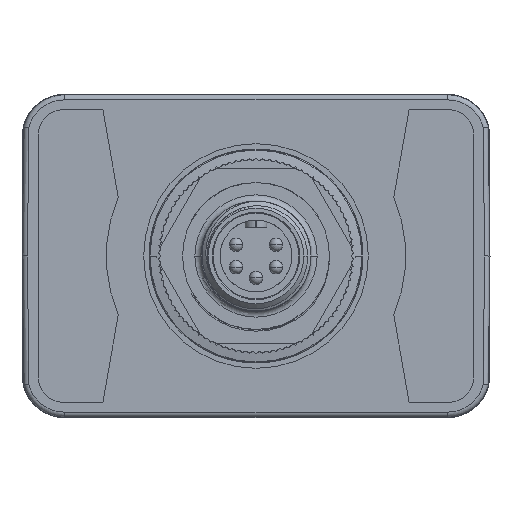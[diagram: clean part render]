
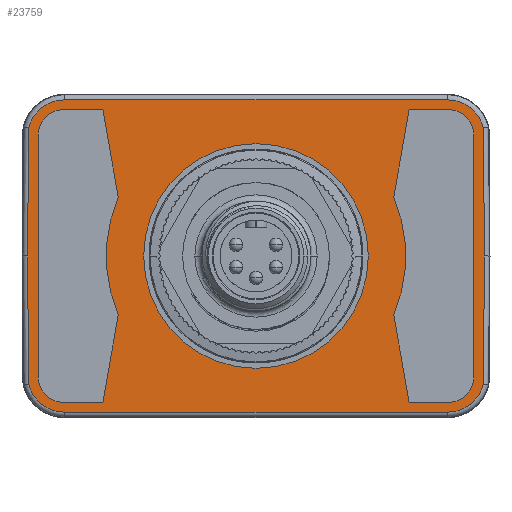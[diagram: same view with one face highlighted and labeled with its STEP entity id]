
A CAD part, front view. The second image highlights one B-rep face of the part: STEP entity #23759.
In plain terms, the highlighted planar face has unit normal (0, -1, 0).
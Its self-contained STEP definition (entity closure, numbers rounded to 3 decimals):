
#2=CARTESIAN_POINT('',(0.,-8.255,0.));
#3=DIRECTION('',(0.,-1.,0.));
#4=DIRECTION('',(-0.393,0.,-0.92));
#5=AXIS2_PLACEMENT_3D('',#2,#3,#4);
#7=DIRECTION('',(-0.985,0.,-0.174));
#8=VECTOR('',#7,13.267);
#9=CARTESIAN_POINT('',(-8.778,-8.255,-20.556));
#10=LINE('',#9,#8);
#11=DIRECTION('',(0.,0.,-1.));
#12=VECTOR('',#11,5.842);
#13=CARTESIAN_POINT('',(-21.844,-8.255,-22.86));
#14=LINE('',#13,#12);
#15=CARTESIAN_POINT('',(-18.034,-8.255,-28.702));
#16=DIRECTION('',(0.,-1.,0.));
#17=DIRECTION('',(-1.,0.,0.));
#18=AXIS2_PLACEMENT_3D('',#15,#16,#17);
#20=DIRECTION('',(1.,0.,0.));
#21=VECTOR('',#20,36.068);
#22=CARTESIAN_POINT('',(-18.034,-8.255,-32.512));
#23=LINE('',#22,#21);
#24=CARTESIAN_POINT('',(18.034,-8.255,-28.702));
#25=DIRECTION('',(0.,-1.,0.));
#26=DIRECTION('',(0.,0.,-1.));
#27=AXIS2_PLACEMENT_3D('',#24,#25,#26);
#29=DIRECTION('',(0.,0.,1.));
#30=VECTOR('',#29,5.842);
#31=CARTESIAN_POINT('',(21.844,-8.255,-28.702));
#32=LINE('',#31,#30);
#33=DIRECTION('',(-0.985,0.,0.174));
#34=VECTOR('',#33,13.267);
#35=CARTESIAN_POINT('',(21.844,-8.255,-22.86));
#36=LINE('',#35,#34);
#37=DIRECTION('',(0.,0.,1.));
#38=VECTOR('',#37,5.842);
#39=CARTESIAN_POINT('',(21.844,-8.255,22.86));
#40=LINE('',#39,#38);
#41=CARTESIAN_POINT('',(18.034,-8.255,28.702));
#42=DIRECTION('',(0.,-1.,0.));
#43=DIRECTION('',(1.,0.,0.));
#44=AXIS2_PLACEMENT_3D('',#41,#42,#43);
#46=DIRECTION('',(-1.,0.,0.));
#47=VECTOR('',#46,36.068);
#48=CARTESIAN_POINT('',(18.034,-8.255,32.512));
#49=LINE('',#48,#47);
#50=CARTESIAN_POINT('',(-18.034,-8.255,28.702));
#51=DIRECTION('',(0.,-1.,0.));
#52=DIRECTION('',(0.,0.,1.));
#53=AXIS2_PLACEMENT_3D('',#50,#51,#52);
#55=DIRECTION('',(0.,0.,-1.));
#56=VECTOR('',#55,5.842);
#57=CARTESIAN_POINT('',(-21.844,-8.255,28.702));
#58=LINE('',#57,#56);
#59=DIRECTION('',(0.985,0.,-0.174));
#60=VECTOR('',#59,13.267);
#61=CARTESIAN_POINT('',(-21.844,-8.255,22.86));
#62=LINE('',#61,#60);
#63=CARTESIAN_POINT('',(0.,-8.255,0.));
#64=DIRECTION('',(0.,-1.,0.));
#65=DIRECTION('',(0.393,0.,0.92));
#66=AXIS2_PLACEMENT_3D('',#63,#64,#65);
#68=DIRECTION('',(0.985,0.,0.174));
#69=VECTOR('',#68,13.267);
#70=CARTESIAN_POINT('',(8.778,-8.255,20.556));
#71=LINE('',#70,#69);
#72=CARTESIAN_POINT('',(0.,-8.255,0.));
#73=DIRECTION('',(0.,-1.,0.));
#74=DIRECTION('',(1.,0.,0.));
#75=AXIS2_PLACEMENT_3D('',#72,#73,#74);
#87=CARTESIAN_POINT('',(0.,-8.255,0.));
#88=DIRECTION('',(0.,-1.,0.));
#89=DIRECTION('',(-1.,0.,0.));
#90=AXIS2_PLACEMENT_3D('',#87,#88,#89);
#12061=DIRECTION('',(1.,0.,-0.009));
#12062=VECTOR('',#12061,19.128);
#12063=CARTESIAN_POINT('',(-19.128,-8.255,-33.931));
#12064=LINE('',#12063,#12062);
#12097=CARTESIAN_POINT('',(-17.78,-8.255,-28.575));
#12098=DIRECTION('',(0.,-1.,0.));
#12099=DIRECTION('',(-1.,0.,0.));
#12100=AXIS2_PLACEMENT_3D('',#12097,#12098,#12099);
#12164=DIRECTION('',(0.,0.,-1.));
#12165=VECTOR('',#12164,57.15);
#12166=CARTESIAN_POINT('',(-23.303,-8.255,28.575));
#12167=LINE('',#12166,#12165);
#12177=CARTESIAN_POINT('',(-17.78,-8.255,28.575));
#12178=DIRECTION('',(0.,-1.,0.));
#12179=DIRECTION('',(-0.244,0.,0.97));
#12180=AXIS2_PLACEMENT_3D('',#12177,#12178,#12179);
#12196=DIRECTION('',(-1.,0.,-0.009));
#12197=VECTOR('',#12196,19.128);
#12198=CARTESIAN_POINT('',(0.,-8.255,34.098));
#12199=LINE('',#12198,#12197);
#12226=DIRECTION('',(-1.,0.,0.009));
#12227=VECTOR('',#12226,19.128);
#12228=CARTESIAN_POINT('',(19.128,-8.255,33.931));
#12229=LINE('',#12228,#12227);
#12275=CARTESIAN_POINT('',(17.78,-8.255,28.575));
#12276=DIRECTION('',(0.,-1.,0.));
#12277=DIRECTION('',(1.,0.,0.));
#12278=AXIS2_PLACEMENT_3D('',#12275,#12276,#12277);
#12302=DIRECTION('',(0.,0.,1.));
#12303=VECTOR('',#12302,57.15);
#12304=CARTESIAN_POINT('',(23.303,-8.255,-28.575));
#12305=LINE('',#12304,#12303);
#12319=CARTESIAN_POINT('',(17.78,-8.255,-28.575));
#12320=DIRECTION('',(0.,-1.,0.));
#12321=DIRECTION('',(0.244,0.,-0.97));
#12322=AXIS2_PLACEMENT_3D('',#12319,#12320,#12321);
#12351=DIRECTION('',(1.,0.,0.009));
#12352=VECTOR('',#12351,19.128);
#12353=CARTESIAN_POINT('',(0.,-8.255,-34.098));
#12354=LINE('',#12353,#12352);
#23360=CARTESIAN_POINT('',(11.507,-8.255,0.));
#23361=CARTESIAN_POINT('',(-11.507,-8.255,0.));
#23362=VERTEX_POINT('',#23360);
#23363=VERTEX_POINT('',#23361);
#23424=CARTESIAN_POINT('',(-8.778,-8.255,-20.556));
#23425=CARTESIAN_POINT('',(8.778,-8.255,-20.556));
#23426=VERTEX_POINT('',#23424);
#23427=VERTEX_POINT('',#23425);
#23428=CARTESIAN_POINT('',(-21.844,-8.255,-22.86));
#23429=VERTEX_POINT('',#23428);
#23430=CARTESIAN_POINT('',(-21.844,-8.255,-28.702));
#23431=VERTEX_POINT('',#23430);
#23432=CARTESIAN_POINT('',(-18.034,-8.255,-32.512));
#23433=VERTEX_POINT('',#23432);
#23434=CARTESIAN_POINT('',(18.034,-8.255,-32.512));
#23435=VERTEX_POINT('',#23434);
#23436=CARTESIAN_POINT('',(21.844,-8.255,-28.702));
#23437=VERTEX_POINT('',#23436);
#23438=CARTESIAN_POINT('',(21.844,-8.255,-22.86));
#23439=VERTEX_POINT('',#23438);
#23456=CARTESIAN_POINT('',(21.844,-8.255,22.86));
#23457=CARTESIAN_POINT('',(21.844,-8.255,28.702));
#23458=VERTEX_POINT('',#23456);
#23459=VERTEX_POINT('',#23457);
#23460=CARTESIAN_POINT('',(18.034,-8.255,32.512));
#23461=VERTEX_POINT('',#23460);
#23462=CARTESIAN_POINT('',(-18.034,-8.255,32.512));
#23463=VERTEX_POINT('',#23462);
#23464=CARTESIAN_POINT('',(-21.844,-8.255,28.702));
#23465=VERTEX_POINT('',#23464);
#23466=CARTESIAN_POINT('',(-21.844,-8.255,22.86));
#23467=VERTEX_POINT('',#23466);
#23468=CARTESIAN_POINT('',(-8.778,-8.255,20.556));
#23469=VERTEX_POINT('',#23468);
#23470=CARTESIAN_POINT('',(8.778,-8.255,20.556));
#23471=VERTEX_POINT('',#23470);
#23476=CARTESIAN_POINT('',(19.128,-8.255,33.931));
#23477=CARTESIAN_POINT('',(0.,-8.255,34.098));
#23478=VERTEX_POINT('',#23476);
#23479=VERTEX_POINT('',#23477);
#23482=CARTESIAN_POINT('',(-19.128,-8.255,33.931));
#23483=VERTEX_POINT('',#23482);
#23488=CARTESIAN_POINT('',(-23.303,-8.255,-28.575));
#23489=CARTESIAN_POINT('',(-19.128,-8.255,-33.931));
#23490=VERTEX_POINT('',#23488);
#23491=VERTEX_POINT('',#23489);
#23492=CARTESIAN_POINT('',(-23.303,-8.255,28.575));
#23493=VERTEX_POINT('',#23492);
#23498=CARTESIAN_POINT('',(0.,-8.255,-34.098));
#23499=VERTEX_POINT('',#23498);
#23500=CARTESIAN_POINT('',(19.128,-8.255,-33.931));
#23501=VERTEX_POINT('',#23500);
#23506=CARTESIAN_POINT('',(23.303,-8.255,28.575));
#23507=VERTEX_POINT('',#23506);
#23508=CARTESIAN_POINT('',(23.303,-8.255,-28.575));
#23509=VERTEX_POINT('',#23508);
#23690=CARTESIAN_POINT('',(0.,-8.255,0.));
#23691=DIRECTION('',(0.,-1.,0.));
#23692=DIRECTION('',(1.,0.,0.));
#23693=AXIS2_PLACEMENT_3D('',#23690,#23691,#23692);
#23694=PLANE('',#23693);
#23696=ORIENTED_EDGE('',*,*,#23695,.F.);
#23698=ORIENTED_EDGE('',*,*,#23697,.F.);
#23700=ORIENTED_EDGE('',*,*,#23699,.F.);
#23702=ORIENTED_EDGE('',*,*,#23701,.F.);
#23704=ORIENTED_EDGE('',*,*,#23703,.F.);
#23706=ORIENTED_EDGE('',*,*,#23705,.F.);
#23708=ORIENTED_EDGE('',*,*,#23707,.F.);
#23710=ORIENTED_EDGE('',*,*,#23709,.F.);
#23712=ORIENTED_EDGE('',*,*,#23711,.F.);
#23714=ORIENTED_EDGE('',*,*,#23713,.F.);
#23715=EDGE_LOOP('',(#23696,#23698,#23700,#23702,#23704,#23706,#23708,#23710,
#23712,#23714));
#23716=FACE_OUTER_BOUND('',#23715,.F.);
#23718=ORIENTED_EDGE('',*,*,#23717,.T.);
#23720=ORIENTED_EDGE('',*,*,#23719,.T.);
#23721=EDGE_LOOP('',(#23718,#23720));
#23722=FACE_BOUND('',#23721,.F.);
#23724=ORIENTED_EDGE('',*,*,#23723,.F.);
#23726=ORIENTED_EDGE('',*,*,#23725,.T.);
#23728=ORIENTED_EDGE('',*,*,#23727,.T.);
#23730=ORIENTED_EDGE('',*,*,#23729,.T.);
#23732=ORIENTED_EDGE('',*,*,#23731,.T.);
#23734=ORIENTED_EDGE('',*,*,#23733,.T.);
#23736=ORIENTED_EDGE('',*,*,#23735,.T.);
#23738=ORIENTED_EDGE('',*,*,#23737,.T.);
#23739=EDGE_LOOP('',(#23724,#23726,#23728,#23730,#23732,#23734,#23736,#23738));
#23740=FACE_BOUND('',#23739,.F.);
#23742=ORIENTED_EDGE('',*,*,#23741,.T.);
#23744=ORIENTED_EDGE('',*,*,#23743,.T.);
#23746=ORIENTED_EDGE('',*,*,#23745,.T.);
#23748=ORIENTED_EDGE('',*,*,#23747,.T.);
#23750=ORIENTED_EDGE('',*,*,#23749,.T.);
#23752=ORIENTED_EDGE('',*,*,#23751,.T.);
#23754=ORIENTED_EDGE('',*,*,#23753,.F.);
#23756=ORIENTED_EDGE('',*,*,#23755,.T.);
#23757=EDGE_LOOP('',(#23742,#23744,#23746,#23748,#23750,#23752,#23754,#23756));
#23758=FACE_BOUND('',#23757,.F.);
#23759=ADVANCED_FACE('',(#23716,#23722,#23740,#23758),#23694,.T.);
#6=CIRCLE('',#5,22.352);
#19=CIRCLE('',#18,3.81);
#28=CIRCLE('',#27,3.81);
#45=CIRCLE('',#44,3.81);
#54=CIRCLE('',#53,3.81);
#67=CIRCLE('',#66,22.352);
#76=CIRCLE('',#75,11.507);
#91=CIRCLE('',#90,11.507);
#12101=CIRCLE('',#12100,5.523);
#12181=CIRCLE('',#12180,5.523);
#12279=CIRCLE('',#12278,5.523);
#12323=CIRCLE('',#12322,5.523);
#23695=EDGE_CURVE('',#23478,#23479,#12229,.T.);
#23697=EDGE_CURVE('',#23507,#23478,#12279,.T.);
#23699=EDGE_CURVE('',#23509,#23507,#12305,.T.);
#23701=EDGE_CURVE('',#23501,#23509,#12323,.T.);
#23703=EDGE_CURVE('',#23499,#23501,#12354,.T.);
#23705=EDGE_CURVE('',#23491,#23499,#12064,.T.);
#23707=EDGE_CURVE('',#23490,#23491,#12101,.T.);
#23709=EDGE_CURVE('',#23493,#23490,#12167,.T.);
#23711=EDGE_CURVE('',#23483,#23493,#12181,.T.);
#23713=EDGE_CURVE('',#23479,#23483,#12199,.T.);
#23717=EDGE_CURVE('',#23362,#23363,#76,.T.);
#23719=EDGE_CURVE('',#23363,#23362,#91,.T.);
#23723=EDGE_CURVE('',#23426,#23427,#6,.T.);
#23725=EDGE_CURVE('',#23426,#23429,#10,.T.);
#23727=EDGE_CURVE('',#23429,#23431,#14,.T.);
#23729=EDGE_CURVE('',#23431,#23433,#19,.T.);
#23731=EDGE_CURVE('',#23433,#23435,#23,.T.);
#23733=EDGE_CURVE('',#23435,#23437,#28,.T.);
#23735=EDGE_CURVE('',#23437,#23439,#32,.T.);
#23737=EDGE_CURVE('',#23439,#23427,#36,.T.);
#23741=EDGE_CURVE('',#23458,#23459,#40,.T.);
#23743=EDGE_CURVE('',#23459,#23461,#45,.T.);
#23745=EDGE_CURVE('',#23461,#23463,#49,.T.);
#23747=EDGE_CURVE('',#23463,#23465,#54,.T.);
#23749=EDGE_CURVE('',#23465,#23467,#58,.T.);
#23751=EDGE_CURVE('',#23467,#23469,#62,.T.);
#23753=EDGE_CURVE('',#23471,#23469,#67,.T.);
#23755=EDGE_CURVE('',#23471,#23458,#71,.T.);
